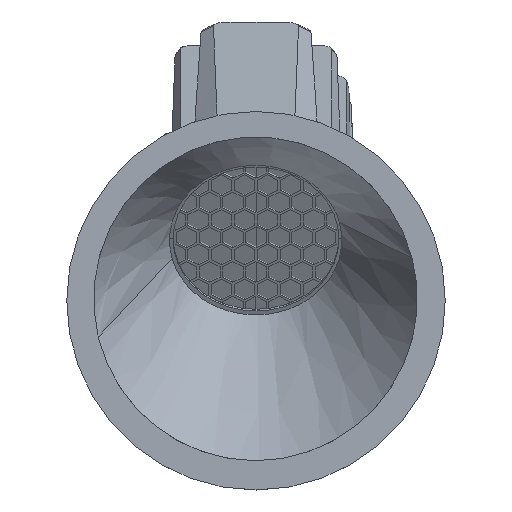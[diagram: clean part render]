
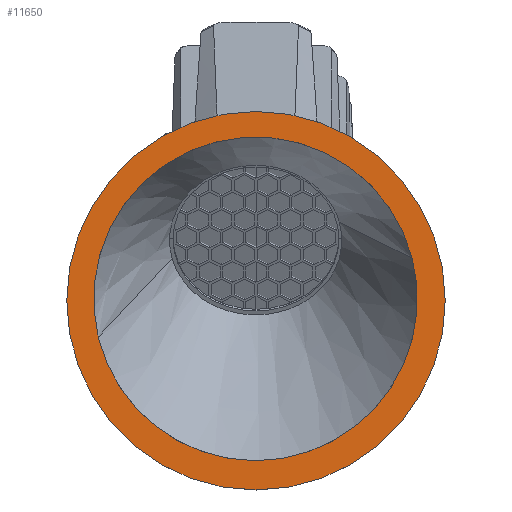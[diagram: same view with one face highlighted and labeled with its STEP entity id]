
A CAD part, top view. The second image highlights one B-rep face of the part: STEP entity #11650.
In plain terms, the highlighted planar face has unit normal (0, 0, 1).
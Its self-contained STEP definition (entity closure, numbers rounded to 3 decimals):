
#397=FACE_BOUND('',#2003,.T.);
#786=PLANE('',#12442);
#1340=FACE_OUTER_BOUND('',#2002,.T.);
#2002=EDGE_LOOP('',(#10620,#10621));
#2003=EDGE_LOOP('',(#10622,#10623));
#2259=CIRCLE('',#12431,38.492);
#2261=CIRCLE('',#12434,38.491);
#2263=CIRCLE('',#12437,45.007);
#2265=CIRCLE('',#12440,45.007);
#5923=VERTEX_POINT('',#19471);
#5925=VERTEX_POINT('',#19475);
#5927=VERTEX_POINT('',#19483);
#5929=VERTEX_POINT('',#19487);
#7572=EDGE_CURVE('',#5923,#5925,#2259,.T.);
#7574=EDGE_CURVE('',#5925,#5923,#2261,.T.);
#7578=EDGE_CURVE('',#5927,#5929,#2263,.T.);
#7580=EDGE_CURVE('',#5929,#5927,#2265,.T.);
#10620=ORIENTED_EDGE('',*,*,#7578,.T.);
#10621=ORIENTED_EDGE('',*,*,#7580,.T.);
#10622=ORIENTED_EDGE('',*,*,#7572,.T.);
#10623=ORIENTED_EDGE('',*,*,#7574,.T.);
#11650=ADVANCED_FACE('',(#1340,#397),#786,.F.);
#12431=AXIS2_PLACEMENT_3D('',#19477,#15163,#15164);
#12434=AXIS2_PLACEMENT_3D('',#19480,#15169,#15170);
#12437=AXIS2_PLACEMENT_3D('',#19489,#15177,#15178);
#12440=AXIS2_PLACEMENT_3D('',#19492,#15183,#15184);
#12442=AXIS2_PLACEMENT_3D('',#19494,#15187,#15188);
#15163=DIRECTION('center_axis',(0.,0.,-1.));
#15164=DIRECTION('ref_axis',(-0.02,-1.,0.));
#15169=DIRECTION('center_axis',(0.,0.,-1.));
#15170=DIRECTION('ref_axis',(0.02,1.,0.));
#15177=DIRECTION('center_axis',(0.,0.,1.));
#15178=DIRECTION('ref_axis',(1.,0.,0.));
#15183=DIRECTION('center_axis',(0.,0.,1.));
#15184=DIRECTION('ref_axis',(1.,0.,0.));
#15187=DIRECTION('center_axis',(0.,0.,-1.));
#15188=DIRECTION('ref_axis',(0.,-1.,0.));
#19471=CARTESIAN_POINT('',(37.513,8.627,-0.312));
#19475=CARTESIAN_POINT('',(-37.15,-10.121,-0.312));
#19477=CARTESIAN_POINT('Origin',(0.109,-0.45,-0.313));
#19480=CARTESIAN_POINT('Origin',(0.11,-0.462,-0.313));
#19483=CARTESIAN_POINT('',(-45.007,-0.007,-0.313));
#19487=CARTESIAN_POINT('',(45.007,-0.007,-0.313));
#19489=CARTESIAN_POINT('Origin',(0.,-0.007,-0.313));
#19492=CARTESIAN_POINT('Origin',(0.,-0.007,-0.313));
#19494=CARTESIAN_POINT('Origin',(45.007,-0.007,
-0.313));
